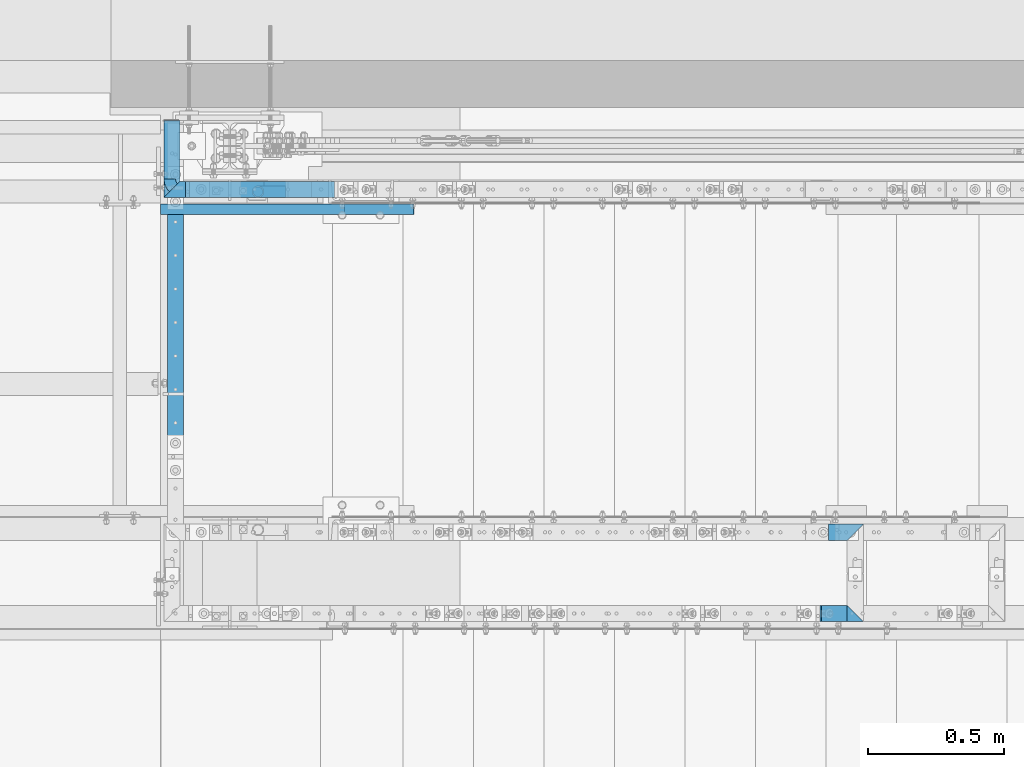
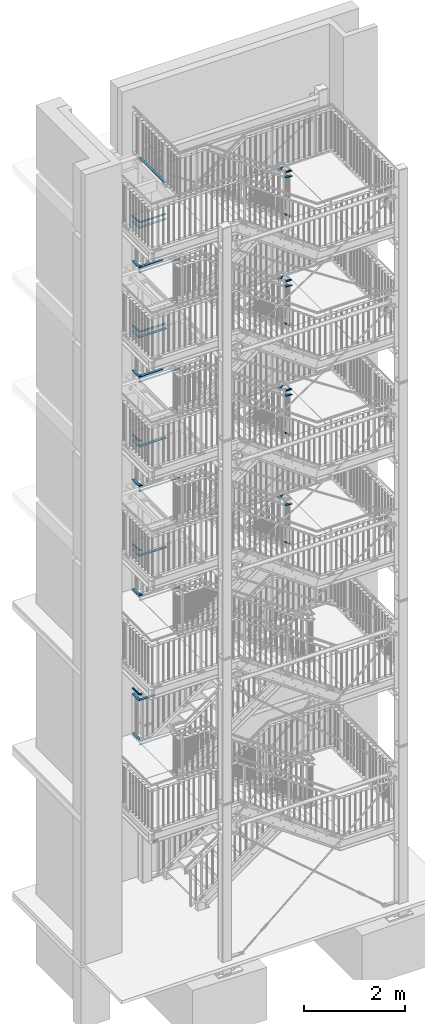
# One storey, part 139 of 831: 51 beams, 4 members, 2 openings.
"""IFC2X3 building model written with IfcOpenShell, lengths in millimetres."""

from ifc_helpers import new_model, entity, si_unit, converted_unit, frame, frame_2d, origin, origin_with_axes, origin_2d, place, context, project, spatial, polyline, rectangle, hollow_circle, l_section, outline, extrude, clip, halfspace, material, element, save


model = new_model("IFC2X3")

# Units and contexts
model_context = context("Model", 3, precision=1e-09, world=origin_with_axes())
ifc_project = project(units=[si_unit("LENGTHUNIT", "METRE", prefix="MILLI"), si_unit("AREAUNIT", "SQUARE_METRE"), si_unit("VOLUMEUNIT", "CUBIC_METRE"), converted_unit("PLANEANGLEUNIT", "DEGREE", entity("IfcPlaneAngleMeasure", 0.01745329), si_unit("PLANEANGLEUNIT", "RADIAN"), dimensions=[0, 0, 0, 0, 0, 0, 0])], contexts=[model_context])

# Site, building, storey
site_placement = place(None, origin_with_axes())
site = spatial("IfcSite", under=ifc_project, at=site_placement, Name="Site", CompositionType="ELEMENT")
building_placement = place(site_placement, origin_with_axes())
building = spatial("IfcBuilding", under=site, at=building_placement, Name="Struktur 1", CompositionType="ELEMENT")
storey_placement = place(building_placement, origin_with_axes())
storey = spatial("IfcBuildingStorey", under=building, at=storey_placement, Name="Default Storey", CompositionType="ELEMENT", Elevation=0.0)

# Beams
ifc_material = material(Name="S235JR")
beam_1_placement = place(None, frame((4683.413402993, 7347.936971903, 13719.0), z_axis=(-1.0, 0.0, 0.0), x_axis=(0.0, 0.0, -1.0)))
element("IfcBeam", 1, at=beam_1_placement, inside=storey, material=ifc_material, Name="Railing_Handrail_Landing#2", ObjectType="Railing_Handrail_Landing#2", context=model_context, shape_type="Clipping", body=[
    clip(extrude(hollow_circle(Radius=21.2, WallThickness=3.2, at=origin_2d()), origin(), (0.0, 0.0, -1.0), 584.815382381), halfspace(frame((10880.560986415, 7347.936971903, -4078.199063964), z_axis=(0.308193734, 0.0, 0.951323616), x_axis=(0.0, 1.0, 0.0)), True)),
])
beam_2_placement = place(None, frame((4709.213402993, 7356.736971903, 12644.0), z_axis=(-1.0, 0.0, 0.0), x_axis=(0.0, 0.0, -1.0)))
element("IfcBeam", 2, at=beam_2_placement, inside=storey, material=ifc_material, Name="Railing_Kneerail_Landing#1", ObjectType="Railing_Kneerail_Landing#1", context=model_context, shape_type="SweptSolid", body=[
    extrude(rectangle(XDim=10.0, YDim=60.0, at=origin_2d()), origin(), (0.0, 0.0, -1.0), 449.566416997),
])
beam_3_placement = place(None, frame((4635.413402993, 7608.736971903, 16354.0), z_axis=(0.0, 1.0, 0.0), x_axis=(1.0, 0.0, 0.0)))
element("IfcBeam", 3, at=beam_3_placement, inside=storey, material=ifc_material, Name="Railing_Handrail_Landing#0", ObjectType="Railing_Handrail_Landing#0", context=model_context, shape_type="SweptSolid", body=[
    extrude(hollow_circle(Radius=21.2, WallThickness=3.2, at=origin_2d()), origin(), (0.0, 0.0, -1.0), 212.8),
])
beam_4_placement = place(None, frame((4635.413402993, 7395.936971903, 16354.0), z_axis=(0.0, 1.0, 0.0), x_axis=(1.0, 0.0, 0.0)))
element("IfcBeam", 4, at=beam_4_placement, inside=storey, material=ifc_material, Name="Elbow#0", ObjectType="Elbow#0", context=model_context, shape_type="SweptSolid", body=[
    entity("IfcRevolvedAreaSolid", entity("IfcCircleHollowProfileDef", "AREA", None, entity("IfcAxis2Placement2D", entity("IfcCartesianPoint", [0.0, 0.0])), 21.2, 3.2), entity("IfcAxis2Placement3D", entity("IfcCartesianPoint", [0.0, 0.0, 0.0])), entity("IfcAxis1Placement", entity("IfcCartesianPoint", [48.0, 0.0, 0.0]), entity("IfcDirection", [0.0, -1.0, 0.0])), 90.0),
])
beam_5_placement = place(None, frame((4683.413402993, 7347.936971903, 16354.0), z_axis=(-1.0, 0.0, 0.0), x_axis=(0.0, 0.0, -1.0)))
element("IfcBeam", 5, at=beam_5_placement, inside=storey, material=ifc_material, Name="Railing_Handrail_Landing#2", ObjectType="Railing_Handrail_Landing#2", context=model_context, shape_type="Clipping", body=[
    clip(extrude(hollow_circle(Radius=21.2, WallThickness=3.2, at=origin_2d()), origin(), (0.0, 0.0, -1.0), 584.801586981), halfspace(frame((13283.997609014, 7347.936971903, -4836.949255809), z_axis=(0.306904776, 0.0, 0.951740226), x_axis=(0.0, 1.0, 0.0)), True)),
])
beam_6_placement = place(None, frame((4709.213402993, 7356.736971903, 15279.0), z_axis=(-1.0, 0.0, 0.0), x_axis=(0.0, 0.0, -1.0)))
element("IfcBeam", 6, at=beam_6_placement, inside=storey, material=ifc_material, Name="Railing_Kneerail_Landing#1", ObjectType="Railing_Kneerail_Landing#1", context=model_context, shape_type="SweptSolid", body=[
    extrude(rectangle(XDim=10.0, YDim=60.0, at=origin_2d()), origin(), (0.0, 0.0, -1.0), 449.354793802),
])
beam_7_placement = place(None, frame((4601.201776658, 7356.736971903, 4860.8), z_axis=(-1.0, 0.0, 0.0), x_axis=(0.0, 0.0, -1.0)))
element("IfcBeam", 7, at=beam_7_placement, inside=storey, material=ifc_material, Name="Railing_Kneerail_Landing#1000", ObjectType="Railing_Kneerail_Landing#1000", context=model_context, shape_type="Clipping", body=[
    clip(extrude(rectangle(XDim=10.0, YDim=60.0, at=origin_2d()), origin(), (0.0, 0.0, -1.0), 382.218059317), halfspace(frame((4860.8, 6000.475894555, 5957.462854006), z_axis=(0.0, 0.707106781, -0.707106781), x_axis=(0.0, -0.707106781, -0.707106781)), True)),
])
beam_8_placement = place(None, frame((4601.201776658, 7356.736971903, 7385.0), z_axis=(-1.0, 0.0, 0.0), x_axis=(0.0, 0.0, -1.0)))
element("IfcBeam", 8, at=beam_8_placement, inside=storey, material=ifc_material, Name="Railing_Kneerail_Landing#0", ObjectType="Railing_Kneerail_Landing#0", context=model_context, shape_type="Clipping", body=[
    clip(extrude(rectangle(XDim=10.0, YDim=60.0, at=origin_2d()), origin(), (0.0, 0.0, -1.0), 93.011626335), halfspace(frame((7385.0, 6000.475894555, 5957.462854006), z_axis=(0.0, 0.707106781, -0.707106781), x_axis=(0.0, -0.707106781, -0.707106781)), True)),
])
beam_9_placement = place(None, frame((4601.201776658, 7356.736971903, 8333.8), z_axis=(-1.0, 0.0, 0.0), x_axis=(0.0, 0.0, -1.0)))
element("IfcBeam", 9, at=beam_9_placement, inside=storey, material=ifc_material, Name="Railing_Kneerail_Landing#1000", ObjectType="Railing_Kneerail_Landing#1000", context=model_context, shape_type="Clipping", body=[
    clip(extrude(rectangle(XDim=10.0, YDim=60.0, at=origin_2d()), origin(), (0.0, 0.0, -1.0), 642.373307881), halfspace(frame((8333.8, 6000.475894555, 5957.462854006), z_axis=(0.0, 0.707106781, -0.707106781), x_axis=(0.0, -0.707106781, -0.707106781)), True)),
])
beam_10_placement = place(None, frame((4601.201776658, 7356.736971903, 10017.0), z_axis=(-1.0, 0.0, 0.0), x_axis=(0.0, 0.0, -1.0)))
element("IfcBeam", 10, at=beam_10_placement, inside=storey, material=ifc_material, Name="Railing_Kneerail_Landing#0", ObjectType="Railing_Kneerail_Landing#0", context=model_context, shape_type="Clipping", body=[
    clip(extrude(rectangle(XDim=10.0, YDim=60.0, at=origin_2d()), origin(), (0.0, 0.0, -1.0), 93.011626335), halfspace(frame((10017.0, 6000.475894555, 5957.462854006), z_axis=(0.0, 0.707106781, -0.707106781), x_axis=(0.0, -0.707106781, -0.707106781)), True)),
])
beam_11_placement = place(None, frame((4601.201776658, 7356.736971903, 10965.8), z_axis=(-1.0, 0.0, 0.0), x_axis=(0.0, 0.0, -1.0)))
element("IfcBeam", 11, at=beam_11_placement, inside=storey, material=ifc_material, Name="Railing_Kneerail_Landing#1000", ObjectType="Railing_Kneerail_Landing#1000", context=model_context, shape_type="Clipping", body=[
    clip(extrude(rectangle(XDim=10.0, YDim=60.0, at=origin_2d()), origin(), (0.0, 0.0, -1.0), 642.362739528), halfspace(frame((10965.8, 6000.475894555, 5957.462854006), z_axis=(0.0, 0.707106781, -0.707106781), x_axis=(0.0, -0.707106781, -0.707106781)), True)),
])
beam_12_placement = place(None, frame((4601.201776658, 7356.736971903, 13592.8), z_axis=(-1.0, 0.0, 0.0), x_axis=(0.0, 0.0, -1.0)))
element("IfcBeam", 12, at=beam_12_placement, inside=storey, material=ifc_material, Name="Railing_Kneerail_Landing#1000", ObjectType="Railing_Kneerail_Landing#1000", context=model_context, shape_type="Clipping", body=[
    clip(extrude(rectangle(XDim=10.0, YDim=60.0, at=origin_2d()), origin(), (0.0, 0.0, -1.0), 642.379643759), halfspace(frame((13592.8, 6000.475894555, 5957.462854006), z_axis=(0.0, 0.707106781, -0.707106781), x_axis=(0.0, -0.707106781, -0.707106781)), True)),
])
beam_13_placement = place(None, frame((4601.201776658, 7356.736971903, 12644.0), z_axis=(-1.0, 0.0, 0.0), x_axis=(0.0, 0.0, -1.0)))
element("IfcBeam", 13, at=beam_13_placement, inside=storey, material=ifc_material, Name="Railing_Kneerail_Landing#0", ObjectType="Railing_Kneerail_Landing#0", context=model_context, shape_type="Clipping", body=[
    clip(extrude(rectangle(XDim=10.0, YDim=60.0, at=origin_2d()), origin(), (0.0, 0.0, -1.0), 93.011626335), halfspace(frame((12644.0, 6000.475894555, 5957.462854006), z_axis=(0.0, 0.707106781, -0.707106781), x_axis=(0.0, -0.707106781, -0.707106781)), True)),
])
beam_14_placement = place(None, frame((4601.201776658, 7356.736971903, 15279.0), z_axis=(-1.0, 0.0, 0.0), x_axis=(0.0, 0.0, -1.0)))
element("IfcBeam", 14, at=beam_14_placement, inside=storey, material=ifc_material, Name="Railing_Kneerail_Landing#0", ObjectType="Railing_Kneerail_Landing#0", context=model_context, shape_type="Clipping", body=[
    clip(extrude(rectangle(XDim=10.0, YDim=60.0, at=origin_2d()), origin(), (0.0, 0.0, -1.0), 93.011626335), halfspace(frame((15279.0, 6000.475894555, 5957.462854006), z_axis=(0.0, 0.707106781, -0.707106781), x_axis=(0.0, -0.707106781, -0.707106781)), True)),
])
beam_15_placement = place(None, frame((4601.201776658, 7356.736971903, 16227.8), z_axis=(-1.0, 0.0, 0.0), x_axis=(0.0, 0.0, -1.0)))
element("IfcBeam", 15, at=beam_15_placement, inside=storey, material=ifc_material, Name="Railing_Kneerail_Landing#1000", ObjectType="Railing_Kneerail_Landing#1000", context=model_context, shape_type="Clipping", body=[
    clip(extrude(rectangle(XDim=10.0, YDim=60.0, at=origin_2d()), origin(), (0.0, 0.0, -1.0), 642.347925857), halfspace(frame((16227.8, 6000.475894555, 5957.462854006), z_axis=(0.0, 0.707106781, -0.707106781), x_axis=(0.0, -0.707106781, -0.707106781)), True)),
])
beam_16_placement = place(None, frame((4644.213402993, 7611.736971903, 15279.0), z_axis=(0.0, 1.0, 0.0), x_axis=(0.0, 0.0, -1.0)))
element("IfcBeam", 16, at=beam_16_placement, inside=storey, material=ifc_material, Name="Railing_Kneerail_Landing#0", ObjectType="Railing_Kneerail_Landing#0", context=model_context, shape_type="Clipping", body=[
    clip(extrude(rectangle(XDim=10.0, YDim=60.0, at=origin_2d()), origin(), (0.0, 0.0, -1.0), 298.011626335), halfspace(frame((15279.0, 6000.475894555, -6255.474480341), z_axis=(0.0, 0.707106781, 0.707106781), x_axis=(0.0, 0.707106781, -0.707106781)), True)),
])
beam_17_placement = place(None, frame((4644.213402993, 7611.736971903, 16227.8), z_axis=(0.0, 1.0, 0.0), x_axis=(0.0, 0.0, -1.0)))
element("IfcBeam", 17, at=beam_17_placement, inside=storey, material=ifc_material, Name="Railing_Kneerail_Landing#0", ObjectType="Railing_Kneerail_Landing#0", context=model_context, shape_type="Clipping", body=[
    clip(extrude(rectangle(XDim=10.0, YDim=60.0, at=origin_2d()), origin(), (0.0, 0.0, -1.0), 298.011626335), halfspace(frame((16227.8, 6000.475894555, -6255.474480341), z_axis=(0.0, 0.707106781, 0.707106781), x_axis=(0.0, 0.707106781, -0.707106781)), True)),
])
beam_18_placement = place(None, frame((4635.413402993, 7608.736971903, 13719.0), z_axis=(0.0, 1.0, 0.0), x_axis=(1.0, 0.0, 0.0)))
element("IfcBeam", 18, at=beam_18_placement, inside=storey, material=ifc_material, Name="Railing_Handrail_Landing#0", ObjectType="Railing_Handrail_Landing#0", context=model_context, shape_type="SweptSolid", body=[
    extrude(hollow_circle(Radius=21.2, WallThickness=3.2, at=origin_2d()), origin(), (0.0, 0.0, -1.0), 212.8),
])
beam_19_placement = place(None, frame((4635.413402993, 7395.936971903, 13719.0), z_axis=(0.0, 1.0, 0.0), x_axis=(1.0, 0.0, 0.0)))
element("IfcBeam", 19, at=beam_19_placement, inside=storey, material=ifc_material, Name="Elbow#0", ObjectType="Elbow#0", context=model_context, shape_type="SweptSolid", body=[
    entity("IfcRevolvedAreaSolid", entity("IfcCircleHollowProfileDef", "AREA", None, entity("IfcAxis2Placement2D", entity("IfcCartesianPoint", [0.0, 0.0])), 21.2, 3.2), entity("IfcAxis2Placement3D", entity("IfcCartesianPoint", [0.0, 0.0, 0.0])), entity("IfcAxis1Placement", entity("IfcCartesianPoint", [48.0, 0.0, 0.0]), entity("IfcDirection", [0.0, -1.0, 0.0])), 90.0),
])
beam_20_placement = place(None, frame((4644.213402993, 7611.736971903, 12644.0), z_axis=(0.0, 1.0, 0.0), x_axis=(0.0, 0.0, -1.0)))
element("IfcBeam", 20, at=beam_20_placement, inside=storey, material=ifc_material, Name="Railing_Kneerail_Landing#0", ObjectType="Railing_Kneerail_Landing#0", context=model_context, shape_type="Clipping", body=[
    clip(extrude(rectangle(XDim=10.0, YDim=60.0, at=origin_2d()), origin(), (0.0, 0.0, -1.0), 298.011626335), halfspace(frame((12644.0, 6000.475894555, -6255.474480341), z_axis=(0.0, 0.707106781, 0.707106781), x_axis=(0.0, 0.707106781, -0.707106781)), True)),
])
beam_21_placement = place(None, frame((4644.213402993, 7611.736971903, 13592.8), z_axis=(0.0, 1.0, 0.0), x_axis=(0.0, 0.0, -1.0)))
element("IfcBeam", 21, at=beam_21_placement, inside=storey, material=ifc_material, Name="Railing_Kneerail_Landing#0", ObjectType="Railing_Kneerail_Landing#0", context=model_context, shape_type="Clipping", body=[
    clip(extrude(rectangle(XDim=10.0, YDim=60.0, at=origin_2d()), origin(), (0.0, 0.0, -1.0), 298.011626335), halfspace(frame((13592.8, 6000.475894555, -6255.474480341), z_axis=(0.0, 0.707106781, 0.707106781), x_axis=(0.0, 0.707106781, -0.707106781)), True)),
])
beam_22_placement = place(None, frame((4635.413402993, 7608.736971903, 11092.0), z_axis=(0.0, 1.0, 0.0), x_axis=(1.0, 0.0, 0.0)))
element("IfcBeam", 22, at=beam_22_placement, inside=storey, material=ifc_material, Name="Railing_Handrail_Landing#0", ObjectType="Railing_Handrail_Landing#0", context=model_context, shape_type="SweptSolid", body=[
    extrude(hollow_circle(Radius=21.2, WallThickness=3.2, at=origin_2d()), origin(), (0.0, 0.0, -1.0), 212.8),
])
beam_23_placement = place(None, frame((4635.413402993, 7395.936971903, 11092.0), z_axis=(0.0, 1.0, 0.0), x_axis=(1.0, 0.0, 0.0)))
element("IfcBeam", 23, at=beam_23_placement, inside=storey, material=ifc_material, Name="Elbow#0", ObjectType="Elbow#0", context=model_context, shape_type="SweptSolid", body=[
    entity("IfcRevolvedAreaSolid", entity("IfcCircleHollowProfileDef", "AREA", None, entity("IfcAxis2Placement2D", entity("IfcCartesianPoint", [0.0, 0.0])), 21.2, 3.2), entity("IfcAxis2Placement3D", entity("IfcCartesianPoint", [0.0, 0.0, 0.0])), entity("IfcAxis1Placement", entity("IfcCartesianPoint", [48.0, 0.0, 0.0]), entity("IfcDirection", [0.0, -1.0, 0.0])), 90.0),
])
beam_24_placement = place(None, frame((4644.213402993, 7611.736971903, 10017.0), z_axis=(0.0, 1.0, 0.0), x_axis=(0.0, 0.0, -1.0)))
element("IfcBeam", 24, at=beam_24_placement, inside=storey, material=ifc_material, Name="Railing_Kneerail_Landing#0", ObjectType="Railing_Kneerail_Landing#0", context=model_context, shape_type="Clipping", body=[
    clip(extrude(rectangle(XDim=10.0, YDim=60.0, at=origin_2d()), origin(), (0.0, 0.0, -1.0), 298.011626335), halfspace(frame((10017.0, 6000.475894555, -6255.474480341), z_axis=(0.0, 0.707106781, 0.707106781), x_axis=(0.0, 0.707106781, -0.707106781)), True)),
])
beam_25_placement = place(None, frame((4644.213402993, 7611.736971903, 10965.8), z_axis=(0.0, 1.0, 0.0), x_axis=(0.0, 0.0, -1.0)))
element("IfcBeam", 25, at=beam_25_placement, inside=storey, material=ifc_material, Name="Railing_Kneerail_Landing#0", ObjectType="Railing_Kneerail_Landing#0", context=model_context, shape_type="Clipping", body=[
    clip(extrude(rectangle(XDim=10.0, YDim=60.0, at=origin_2d()), origin(), (0.0, 0.0, -1.0), 298.011626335), halfspace(frame((10965.8, 6000.475894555, -6255.474480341), z_axis=(0.0, 0.707106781, 0.707106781), x_axis=(0.0, 0.707106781, -0.707106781)), True)),
])
beam_26_placement = place(None, frame((4635.413402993, 7608.736971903, 8460.0), z_axis=(0.0, 1.0, 0.0), x_axis=(1.0, 0.0, 0.0)))
element("IfcBeam", 26, at=beam_26_placement, inside=storey, material=ifc_material, Name="Railing_Handrail_Landing#0", ObjectType="Railing_Handrail_Landing#0", context=model_context, shape_type="SweptSolid", body=[
    extrude(hollow_circle(Radius=21.2, WallThickness=3.2, at=origin_2d()), origin(), (0.0, 0.0, -1.0), 212.8),
])
beam_27_placement = place(None, frame((4635.413402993, 7395.936971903, 8460.0), z_axis=(0.0, 1.0, 0.0), x_axis=(1.0, 0.0, 0.0)))
element("IfcBeam", 27, at=beam_27_placement, inside=storey, material=ifc_material, Name="Elbow#0", ObjectType="Elbow#0", context=model_context, shape_type="SweptSolid", body=[
    entity("IfcRevolvedAreaSolid", entity("IfcCircleHollowProfileDef", "AREA", None, entity("IfcAxis2Placement2D", entity("IfcCartesianPoint", [0.0, 0.0])), 21.2, 3.2), entity("IfcAxis2Placement3D", entity("IfcCartesianPoint", [0.0, 0.0, 0.0])), entity("IfcAxis1Placement", entity("IfcCartesianPoint", [48.0, 0.0, 0.0]), entity("IfcDirection", [0.0, -1.0, 0.0])), 90.0),
])
beam_28_placement = place(None, frame((4644.213402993, 7611.736971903, 7385.0), z_axis=(0.0, 1.0, 0.0), x_axis=(0.0, 0.0, -1.0)))
element("IfcBeam", 28, at=beam_28_placement, inside=storey, material=ifc_material, Name="Railing_Kneerail_Landing#0", ObjectType="Railing_Kneerail_Landing#0", context=model_context, shape_type="Clipping", body=[
    clip(extrude(rectangle(XDim=10.0, YDim=60.0, at=origin_2d()), origin(), (0.0, 0.0, -1.0), 298.011626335), halfspace(frame((7385.0, 6000.475894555, -6255.474480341), z_axis=(0.0, 0.707106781, 0.707106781), x_axis=(0.0, 0.707106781, -0.707106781)), True)),
])
beam_29_placement = place(None, frame((4644.213402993, 7611.736971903, 8333.8), z_axis=(0.0, 1.0, 0.0), x_axis=(0.0, 0.0, -1.0)))
element("IfcBeam", 29, at=beam_29_placement, inside=storey, material=ifc_material, Name="Railing_Kneerail_Landing#0", ObjectType="Railing_Kneerail_Landing#0", context=model_context, shape_type="Clipping", body=[
    clip(extrude(rectangle(XDim=10.0, YDim=60.0, at=origin_2d()), origin(), (0.0, 0.0, -1.0), 298.011626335), halfspace(frame((8333.8, 6000.475894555, -6255.474480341), z_axis=(0.0, 0.707106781, 0.707106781), x_axis=(0.0, 0.707106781, -0.707106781)), True)),
])
beam_30_placement = place(None, frame((4635.413402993, 7608.736971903, 4987.0), z_axis=(0.0, 1.0, 0.0), x_axis=(1.0, 0.0, 0.0)))
element("IfcBeam", 30, at=beam_30_placement, inside=storey, material=ifc_material, Name="Railing_Handrail_Landing#0", ObjectType="Railing_Handrail_Landing#0", context=model_context, shape_type="SweptSolid", body=[
    extrude(hollow_circle(Radius=21.2, WallThickness=3.2, at=origin_2d()), origin(), (0.0, 0.0, -1.0), 212.8),
])
beam_31_placement = place(None, frame((4635.413402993, 7395.936971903, 4987.0), z_axis=(0.0, 1.0, 0.0), x_axis=(1.0, 0.0, 0.0)))
element("IfcBeam", 31, at=beam_31_placement, inside=storey, material=ifc_material, Name="Elbow#0", ObjectType="Elbow#0", context=model_context, shape_type="SweptSolid", body=[
    entity("IfcRevolvedAreaSolid", entity("IfcCircleHollowProfileDef", "AREA", None, entity("IfcAxis2Placement2D", entity("IfcCartesianPoint", [0.0, 0.0])), 21.2, 3.2), entity("IfcAxis2Placement3D", entity("IfcCartesianPoint", [0.0, 0.0, 0.0])), entity("IfcAxis1Placement", entity("IfcCartesianPoint", [48.0, 0.0, 0.0]), entity("IfcDirection", [0.0, -1.0, 0.0])), 90.0),
])
beam_32_placement = place(None, frame((4644.213402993, 7611.736971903, 3912.0), z_axis=(0.0, 1.0, 0.0), x_axis=(0.0, 0.0, -1.0)))
element("IfcBeam", 32, at=beam_32_placement, inside=storey, material=ifc_material, Name="Railing_Kneerail_Landing#0", ObjectType="Railing_Kneerail_Landing#0", context=model_context, shape_type="Clipping", body=[
    clip(extrude(rectangle(XDim=10.0, YDim=60.0, at=origin_2d()), origin(), (0.0, 0.0, -1.0), 298.011626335), halfspace(frame((3912.0, 6000.475894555, -6255.474480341), z_axis=(0.0, 0.707106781, 0.707106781), x_axis=(0.0, 0.707106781, -0.707106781)), True)),
])
beam_33_placement = place(None, frame((4644.213402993, 7611.736971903, 4860.8), z_axis=(0.0, 1.0, 0.0), x_axis=(0.0, 0.0, -1.0)))
element("IfcBeam", 33, at=beam_33_placement, inside=storey, material=ifc_material, Name="Railing_Kneerail_Landing#0", ObjectType="Railing_Kneerail_Landing#0", context=model_context, shape_type="Clipping", body=[
    clip(extrude(rectangle(XDim=10.0, YDim=60.0, at=origin_2d()), origin(), (0.0, 0.0, -1.0), 298.011626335), halfspace(frame((4860.8, 6000.475894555, -6255.474480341), z_axis=(0.0, 0.707106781, 0.707106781), x_axis=(0.0, 0.707106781, -0.707106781)), True)),
])
beam_34_placement = place(None, frame((5061.878639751, 7347.936971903, 1341.2000007), z_axis=(1.0, 0.0, 0.0), x_axis=(0.0, 0.0, 1.0)))
element("IfcBeam", 34, at=beam_34_placement, inside=storey, material=ifc_material, Name="Railing_Handrail_Landing#0", ObjectType="Railing_Handrail_Landing#0", context=model_context, shape_type="Clipping", body=[
    clip(extrude(hollow_circle(Radius=21.2, WallThickness=3.2, at=origin_2d()), origin(), (0.0, 0.0, -1.0), 143.176973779), halfspace(frame((-3151.151540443, 7347.936971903, -3251.927100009), z_axis=(-0.707106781, 0.0, 0.707106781), x_axis=(0.0, -1.0, 0.0)), True)),
])
beam_35_placement = place(None, frame((4601.713402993, 7292.536971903, 9940.8), z_axis=(-1.0, 0.0, 0.0), x_axis=(0.0, 0.0, -1.0)))
element("IfcBeam", 35, at=beam_35_placement, inside=storey, material=ifc_material, Name="BottomLanding#3", ObjectType="BottomLanding#3", context=model_context, shape_type="SweptSolid", body=[
    extrude(l_section(Depth=40.0, Width=40.0, Thickness=4.0, FilletRadius=6.0, EdgeRadius=3.0, at=frame_2d((8.8, 8.8))), origin(), (0.0, 0.0, -1.0), 934.257526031),
])
beam_36_placement = place(None, frame((4601.713402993, 7292.536971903, 7308.8), z_axis=(-1.0, 0.0, 0.0), x_axis=(0.0, 0.0, -1.0)))
element("IfcBeam", 36, at=beam_36_placement, inside=storey, material=ifc_material, Name="BottomLanding#3", ObjectType="BottomLanding#3", context=model_context, shape_type="SweptSolid", body=[
    extrude(l_section(Depth=40.0, Width=40.0, Thickness=4.0, FilletRadius=6.0, EdgeRadius=3.0, at=frame_2d((8.8, 8.8))), origin(), (0.0, 0.0, -1.0), 933.956009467),
])
beam_37_placement = place(None, frame((4601.713402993, 7292.536971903, 12567.8), z_axis=(-1.0, 0.0, 0.0), x_axis=(0.0, 0.0, -1.0)))
element("IfcBeam", 37, at=beam_37_placement, inside=storey, material=ifc_material, Name="BottomLanding#3", ObjectType="BottomLanding#3", context=model_context, shape_type="SweptSolid", body=[
    extrude(l_section(Depth=40.0, Width=40.0, Thickness=4.0, FilletRadius=6.0, EdgeRadius=3.0, at=frame_2d((8.8, 8.8))), origin(), (0.0, 0.0, -1.0), 933.775808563),
])
beam_38_placement = place(None, frame((4601.713402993, 7292.536971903, 15202.8), z_axis=(-1.0, 0.0, 0.0), x_axis=(0.0, 0.0, -1.0)))
element("IfcBeam", 38, at=beam_38_placement, inside=storey, material=ifc_material, Name="BottomLanding#3", ObjectType="BottomLanding#3", context=model_context, shape_type="SweptSolid", body=[
    extrude(l_section(Depth=40.0, Width=40.0, Thickness=4.0, FilletRadius=6.0, EdgeRadius=3.0, at=frame_2d((8.8, 8.8))), origin(), (0.0, 0.0, -1.0), 934.682146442),
])
beam_39_placement = place(None, frame((4601.713402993, 7292.536971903, 3835.8), z_axis=(-1.0, 0.0, 0.0), x_axis=(0.0, 0.0, -1.0)))
element("IfcBeam", 39, at=beam_39_placement, inside=storey, material=ifc_material, Name="BottomLanding#3", ObjectType="BottomLanding#3", context=model_context, shape_type="SweptSolid", body=[
    extrude(l_section(Depth=40.0, Width=40.0, Thickness=4.0, FilletRadius=6.0, EdgeRadius=3.0, at=frame_2d((8.8, 8.8))), origin(), (0.0, 0.0, -1.0), 678.506103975),
])

# Member
member_1_placement = place(None, frame((7131.846764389, 5791.736971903, 8701.885018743), z_axis=(0.810350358, 0.0, -0.585945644), x_axis=(-0.585945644, 0.0, -0.810350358)))
element("IfcMember", 40, at=member_1_placement, inside=storey, material=ifc_material, Name="Railing_Kneerail_Stair#1", ObjectType="Railing_Kneerail_Stair#1", context=model_context, shape_type="SweptSolid", body=[
    extrude(rectangle(XDim=10.0, YDim=60.0, at=origin_2d()), origin(), (0.0, 0.0, -1.0), 116.866281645),
])

# Beams
beam_40_placement = place(None, frame((7249.726029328, 5791.736971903, 9649.8), z_axis=(1.0, 0.0, 0.0), x_axis=(0.0, 0.0, -1.0)))
element("IfcBeam", 41, at=beam_40_placement, inside=storey, material=ifc_material, Name="Railing_Kneerail_Landing#1000", ObjectType="Railing_Kneerail_Landing#1000", context=model_context, shape_type="Clipping", body=[
    clip(extrude(rectangle(XDim=10.0, YDim=60.0, at=origin_2d()), origin(), (0.0, 0.0, -1.0), 199.874307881), halfspace(frame((9649.8, 686.541913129, -771.447144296), z_axis=(0.0, -0.707106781, -0.707106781), x_axis=(0.0, -0.707106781, 0.707106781)), True)),
])
beam_41_placement = place(None, frame((7216.022212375, 5782.936971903, 12405.5000003), z_axis=(1.0, 0.0, 0.0), x_axis=(0.0, 0.0, -1.0)))
element("IfcBeam", 42, at=beam_41_placement, inside=storey, material=ifc_material, Name="Railing_Handrail_Landing#2", ObjectType="Railing_Handrail_Landing#2", context=model_context, shape_type="Clipping", body=[
    clip(clip(extrude(hollow_circle(Radius=21.2, WallThickness=3.2, at=origin_2d()), origin(), (0.0, 0.0, -1.0), 190.816832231), halfspace(frame((12405.5000003, 695.341913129, -737.743327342), z_axis=(0.0, -0.707106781, -0.707106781), x_axis=(0.0, -0.707106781, 0.707106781)), True)), halfspace(frame((13297.273101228, -5782.936971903, -4456.530548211), z_axis=(0.307506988, 0.0, 0.951545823), x_axis=(0.0, 1.0, 0.0)), True)),
])

# Member
member_2_placement = place(None, frame((7131.874645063, 5791.736971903, 11331.415818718), z_axis=(0.810878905, 0.0, -0.585213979), x_axis=(-0.585213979, 0.0, -0.810878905)))
element("IfcMember", 43, at=member_2_placement, inside=storey, material=ifc_material, Name="Railing_Kneerail_Stair#1", ObjectType="Railing_Kneerail_Stair#1", context=model_context, shape_type="SweptSolid", body=[
    extrude(rectangle(XDim=10.0, YDim=60.0, at=origin_2d()), origin(), (0.0, 0.0, -1.0), 116.829000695),
])

# Beams
beam_42_placement = place(None, frame((7249.726029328, 5791.736971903, 12279.3000003), z_axis=(1.0, 0.0, 0.0), x_axis=(0.0, 0.0, -1.0)))
element("IfcBeam", 44, at=beam_42_placement, inside=storey, material=ifc_material, Name="Railing_Kneerail_Landing#1000", ObjectType="Railing_Kneerail_Landing#1000", context=model_context, shape_type="Clipping", body=[
    clip(extrude(rectangle(XDim=10.0, YDim=60.0, at=origin_2d()), origin(), (0.0, 0.0, -1.0), 199.863739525), halfspace(frame((12279.3000003, 686.541913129, -771.447144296), z_axis=(0.0, -0.707106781, -0.707106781), x_axis=(0.0, -0.707106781, 0.707106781)), True)),
])
beam_43_placement = place(None, frame((7216.022212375, 5782.936971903, 15036.5000001), z_axis=(1.0, 0.0, 0.0), x_axis=(0.0, 0.0, -1.0)))
element("IfcBeam", 45, at=beam_43_placement, inside=storey, material=ifc_material, Name="Railing_Handrail_Landing#2", ObjectType="Railing_Handrail_Landing#2", context=model_context, shape_type="Clipping", body=[
    clip(clip(extrude(hollow_circle(Radius=21.2, WallThickness=3.2, at=origin_2d()), origin(), (0.0, 0.0, -1.0), 190.824191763), halfspace(frame((15036.5000001, 695.341913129, -737.743327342), z_axis=(0.0, -0.707106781, -0.707106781), x_axis=(0.0, -0.707106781, 0.707106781)), True)), halfspace(frame((15677.254505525, -5782.936971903, -5238.15950795), z_axis=(0.308193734, 0.0, 0.951323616), x_axis=(0.0, 1.0, 0.0)), True)),
])

# Member
member_3_placement = place(None, frame((7131.830041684, 5791.736971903, 13962.366603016), z_axis=(0.810033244, 0.0, -0.586383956), x_axis=(-0.586383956, 0.0, -0.810033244)))
element("IfcMember", 46, at=member_3_placement, inside=storey, material=ifc_material, Name="Railing_Kneerail_Stair#1", ObjectType="Railing_Kneerail_Stair#1", context=model_context, shape_type="SweptSolid", body=[
    extrude(rectangle(XDim=10.0, YDim=60.0, at=origin_2d()), origin(), (0.0, 0.0, -1.0), 116.888682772),
])

# Beams
beam_44_placement = place(None, frame((7249.726029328, 5791.736971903, 14910.3000001), z_axis=(1.0, 0.0, 0.0), x_axis=(0.0, 0.0, -1.0)))
element("IfcBeam", 47, at=beam_44_placement, inside=storey, material=ifc_material, Name="Railing_Kneerail_Landing#1000", ObjectType="Railing_Kneerail_Landing#1000", context=model_context, shape_type="Clipping", body=[
    clip(extrude(rectangle(XDim=10.0, YDim=60.0, at=origin_2d()), origin(), (0.0, 0.0, -1.0), 199.880643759), halfspace(frame((14910.3000001, 686.541913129, -771.447144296), z_axis=(0.0, -0.707106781, -0.707106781), x_axis=(0.0, -0.707106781, 0.707106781)), True)),
])
beam_45_placement = place(None, frame((7216.022212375, 5782.936971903, 17664.0000003), z_axis=(1.0, 0.0, 0.0), x_axis=(0.0, 0.0, -1.0)))
element("IfcBeam", 48, at=beam_45_placement, inside=storey, material=ifc_material, Name="Railing_Handrail_Landing#2", ObjectType="Railing_Handrail_Landing#2", context=model_context, shape_type="Clipping", body=[
    clip(clip(extrude(hollow_circle(Radius=21.2, WallThickness=3.2, at=origin_2d()), origin(), (0.0, 0.0, -1.0), 190.810396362), halfspace(frame((17664.0000003, 695.341913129, -737.743327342), z_axis=(0.0, -0.707106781, -0.707106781), x_axis=(0.0, -0.707106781, 0.707106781)), True)), halfspace(frame((18061.439551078, -5782.936971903, -5983.525237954), z_axis=(0.306904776, 0.0, 0.951740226), x_axis=(0.0, 1.0, 0.0)), True)),
])

# Member
member_4_placement = place(None, frame((7131.913697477, 5791.736971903, 16589.959162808), z_axis=(0.811618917, 0.0, -0.584187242), x_axis=(-0.584187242, 0.0, -0.811618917)))
element("IfcMember", 49, at=member_4_placement, inside=storey, material=ifc_material, Name="Railing_Kneerail_Stair#1", ObjectType="Railing_Kneerail_Stair#1", context=model_context, shape_type="SweptSolid", body=[
    extrude(rectangle(XDim=10.0, YDim=60.0, at=origin_2d()), origin(), (0.0, 0.0, -1.0), 116.776921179),
])

# Beam, openings
beam_46_placement = place(None, frame((4656.713402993, 6370.486721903, 17899.0), z_axis=(0.0, -1.0, 0.0), x_axis=(0.0, 0.0, -1.0)))
beam_46 = element("IfcBeam", 50, at=beam_46_placement, inside=storey, material=ifc_material, Name="Railing_Kneerail_Landing#7", ObjectType="Railing_Kneerail_Landing#7", context=model_context, shape_type="SweptSolid", body=[
    extrude(rectangle(XDim=10.0, YDim=60.0, at=origin_2d()), origin(), (0.0, 0.0, -1.0), 991.25025),
])
opening_1_placement = place(beam_46_placement, frame((60.0, 0.0, -991.25025), z_axis=(-1.0, 0.0, 0.0), x_axis=(0.0, 1.0, 0.0)))
element("IfcOpeningElement", 51, at=opening_1_placement, cuts=beam_46, ObjectType="Opening", context=model_context, shape_type="SweptSolid", body=[
    extrude(outline(polyline([(30.001, -983.74925), (-30.001, -983.74925), (-30.001, -998.75125), (30.001, -998.75125), (30.001, -983.74925)])), origin(), (0.0, 0.0, 1.0), 120.0),
])
opening_2_placement = place(beam_46_placement, frame((60.0, 0.0, -991.25025), z_axis=(-1.0, 0.0, 0.0), x_axis=(0.0, 1.0, 0.0)))
element("IfcOpeningElement", 52, at=opening_2_placement, cuts=beam_46, ObjectType="Opening", context=model_context, shape_type="SweptSolid", body=[
    extrude(outline(polyline([(30.001, 7.501), (-30.001, 7.501), (-30.001, -7.501), (30.001, -7.501), (30.001, 7.501)])), origin(), (0.0, 0.0, 1.0), 120.0),
])

# Beams
beam_47_placement = place(None, frame((7249.726029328, 5791.736971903, 17537.8000003), z_axis=(1.0, 0.0, 0.0), x_axis=(0.0, 0.0, -1.0)))
element("IfcBeam", 53, at=beam_47_placement, inside=storey, material=ifc_material, Name="Railing_Kneerail_Landing#1000", ObjectType="Railing_Kneerail_Landing#1000", context=model_context, shape_type="Clipping", body=[
    clip(extrude(rectangle(XDim=10.0, YDim=60.0, at=origin_2d()), origin(), (0.0, 0.0, -1.0), 199.848925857), halfspace(frame((17537.8000003, 686.541913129, -771.447144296), z_axis=(0.0, -0.707106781, -0.707106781), x_axis=(0.0, -0.707106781, 0.707106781)), True)),
])
beam_48_placement = place(None, frame((7066.774372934, 6091.736971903, 17537.8000003), z_axis=(-1.0, 0.0, 0.0), x_axis=(0.0, 0.0, -1.0)))
element("IfcBeam", 54, at=beam_48_placement, inside=storey, material=ifc_material, Name="Railing_Kneerail_Landing#1005", ObjectType="Railing_Kneerail_Landing#1005", context=model_context, shape_type="Clipping", body=[
    clip(extrude(rectangle(XDim=10.0, YDim=60.0, at=origin_2d()), origin(), (0.0, 0.0, -1.0), 141.059465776), halfspace(frame((17537.8000003, 6628.278885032, 6530.232459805), z_axis=(0.0, -0.707106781, 0.707106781), x_axis=(0.0, 0.707106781, 0.707106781)), True)),
])
beam_49_placement = place(None, frame((7066.821051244, 6091.736971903, 14910.3000001), z_axis=(-1.0, 0.0, 0.0), x_axis=(0.0, 0.0, -1.0)))
element("IfcBeam", 55, at=beam_49_placement, inside=storey, material=ifc_material, Name="Railing_Kneerail_Landing#1005", ObjectType="Railing_Kneerail_Landing#1005", context=model_context, shape_type="Clipping", body=[
    clip(extrude(rectangle(XDim=10.0, YDim=60.0, at=origin_2d()), origin(), (0.0, 0.0, -1.0), 141.012787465), halfspace(frame((14910.3000001, 6628.278885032, 6530.279138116), z_axis=(0.0, -0.707106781, 0.707106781), x_axis=(0.0, 0.707106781, 0.707106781)), True)),
])
beam_50_placement = place(None, frame((7066.796173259, 6091.736971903, 12279.3000003), z_axis=(-1.0, 0.0, 0.0), x_axis=(0.0, 0.0, -1.0)))
element("IfcBeam", 56, at=beam_50_placement, inside=storey, material=ifc_material, Name="Railing_Kneerail_Landing#1005", ObjectType="Railing_Kneerail_Landing#1005", context=model_context, shape_type="Clipping", body=[
    clip(extrude(rectangle(XDim=10.0, YDim=60.0, at=origin_2d()), origin(), (0.0, 0.0, -1.0), 141.037665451), halfspace(frame((12279.3000003, 6628.278885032, 6530.25426013), z_axis=(0.0, -0.707106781, 0.707106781), x_axis=(0.0, 0.707106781, 0.707106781)), True)),
])
beam_51_placement = place(None, frame((7066.811726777, 6091.736971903, 9649.8), z_axis=(-1.0, 0.0, 0.0), x_axis=(0.0, 0.0, -1.0)))
element("IfcBeam", 57, at=beam_51_placement, inside=storey, material=ifc_material, Name="Railing_Kneerail_Landing#1004", ObjectType="Railing_Kneerail_Landing#1004", context=model_context, shape_type="Clipping", body=[
    clip(extrude(rectangle(XDim=10.0, YDim=60.0, at=origin_2d()), origin(), (0.0, 0.0, -1.0), 141.022111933), halfspace(frame((9649.8, 6628.278885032, 6530.269813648), z_axis=(0.0, -0.707106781, 0.707106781), x_axis=(0.0, 0.707106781, 0.707106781)), True)),
])

save(model, "model.ifc")
